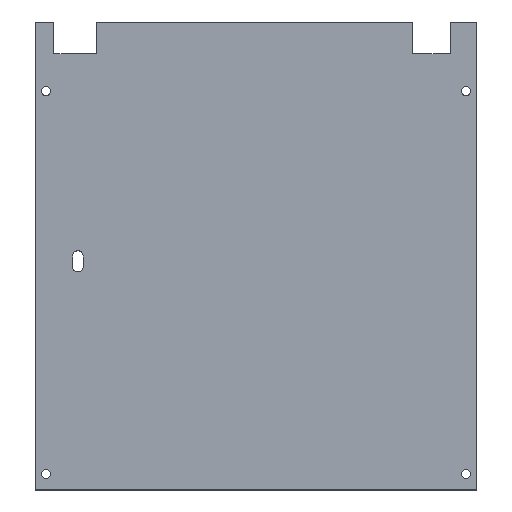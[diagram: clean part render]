
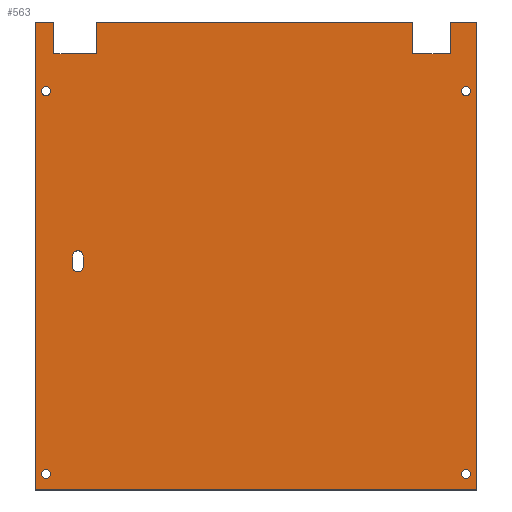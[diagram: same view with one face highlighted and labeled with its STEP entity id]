
A CAD part, top view. The second image highlights one B-rep face of the part: STEP entity #563.
In plain terms, the highlighted planar face has unit normal (0, 0, 1).
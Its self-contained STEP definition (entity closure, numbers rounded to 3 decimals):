
#116=CARTESIAN_POINT('',(-39.5,-41.,1.));
#117=DIRECTION('',(0.,0.,-1.));
#118=DIRECTION('',(-1.,0.,0.));
#119=AXIS2_PLACEMENT_3D('',#116,#117,#118);
#121=CARTESIAN_POINT('',(-39.5,-41.,1.));
#122=DIRECTION('',(0.,0.,-1.));
#123=DIRECTION('',(1.,0.,0.));
#124=AXIS2_PLACEMENT_3D('',#121,#122,#123);
#126=CARTESIAN_POINT('',(39.5,-41.,1.));
#127=DIRECTION('',(0.,0.,-1.));
#128=DIRECTION('',(-1.,0.,0.));
#129=AXIS2_PLACEMENT_3D('',#126,#127,#128);
#131=CARTESIAN_POINT('',(39.5,-41.,1.));
#132=DIRECTION('',(0.,0.,-1.));
#133=DIRECTION('',(1.,0.,0.));
#134=AXIS2_PLACEMENT_3D('',#131,#132,#133);
#136=CARTESIAN_POINT('',(-39.5,31.,1.));
#137=DIRECTION('',(0.,0.,-1.));
#138=DIRECTION('',(-1.,0.,0.));
#139=AXIS2_PLACEMENT_3D('',#136,#137,#138);
#141=CARTESIAN_POINT('',(-39.5,31.,1.));
#142=DIRECTION('',(0.,0.,-1.));
#143=DIRECTION('',(1.,0.,0.));
#144=AXIS2_PLACEMENT_3D('',#141,#142,#143);
#146=CARTESIAN_POINT('',(39.5,31.,1.));
#147=DIRECTION('',(0.,0.,-1.));
#148=DIRECTION('',(-1.,0.,0.));
#149=AXIS2_PLACEMENT_3D('',#146,#147,#148);
#151=CARTESIAN_POINT('',(39.5,31.,1.));
#152=DIRECTION('',(0.,0.,-1.));
#153=DIRECTION('',(1.,0.,0.));
#154=AXIS2_PLACEMENT_3D('',#151,#152,#153);
#156=CARTESIAN_POINT('',(-33.5,0.,1.));
#157=DIRECTION('',(0.,0.,1.));
#158=DIRECTION('',(1.,0.,0.));
#159=AXIS2_PLACEMENT_3D('',#156,#157,#158);
#161=DIRECTION('',(0.,-1.,0.));
#162=VECTOR('',#161,2.);
#163=CARTESIAN_POINT('',(-34.5,0.,1.));
#164=LINE('',#163,#162);
#165=CARTESIAN_POINT('',(-33.5,-2.,1.));
#166=DIRECTION('',(0.,0.,1.));
#167=DIRECTION('',(-1.,0.,0.));
#168=AXIS2_PLACEMENT_3D('',#165,#166,#167);
#170=DIRECTION('',(0.,1.,0.));
#171=VECTOR('',#170,2.);
#172=CARTESIAN_POINT('',(-32.5,-2.,1.));
#173=LINE('',#172,#171);
#174=DIRECTION('',(0.,-1.,0.));
#175=VECTOR('',#174,6.);
#176=CARTESIAN_POINT('',(-38.,44.,1.));
#177=LINE('',#176,#175);
#178=DIRECTION('',(1.,0.,0.));
#179=VECTOR('',#178,8.);
#180=CARTESIAN_POINT('',(-38.,38.,1.));
#181=LINE('',#180,#179);
#182=DIRECTION('',(0.,-1.,0.));
#183=VECTOR('',#182,6.);
#184=CARTESIAN_POINT('',(-30.,44.,1.));
#185=LINE('',#184,#183);
#186=DIRECTION('',(-1.,0.,0.));
#187=VECTOR('',#186,59.5);
#188=CARTESIAN_POINT('',(29.5,44.,1.));
#189=LINE('',#188,#187);
#190=DIRECTION('',(0.,-1.,0.));
#191=VECTOR('',#190,6.);
#192=CARTESIAN_POINT('',(29.5,44.,1.));
#193=LINE('',#192,#191);
#194=DIRECTION('',(1.,0.,0.));
#195=VECTOR('',#194,7.);
#196=CARTESIAN_POINT('',(29.5,38.,1.));
#197=LINE('',#196,#195);
#198=DIRECTION('',(0.,-1.,0.));
#199=VECTOR('',#198,6.);
#200=CARTESIAN_POINT('',(36.5,44.,1.));
#201=LINE('',#200,#199);
#202=DIRECTION('',(-1.,0.,0.));
#203=VECTOR('',#202,5.);
#204=CARTESIAN_POINT('',(41.5,44.,1.));
#205=LINE('',#204,#203);
#206=DIRECTION('',(0.,1.,0.));
#207=VECTOR('',#206,88.);
#208=CARTESIAN_POINT('',(41.5,-44.,1.));
#209=LINE('',#208,#207);
#210=DIRECTION('',(1.,0.,0.));
#211=VECTOR('',#210,83.);
#212=CARTESIAN_POINT('',(-41.5,-44.,1.));
#213=LINE('',#212,#211);
#214=DIRECTION('',(0.,-1.,0.));
#215=VECTOR('',#214,88.);
#216=CARTESIAN_POINT('',(-41.5,44.,1.));
#217=LINE('',#216,#215);
#218=DIRECTION('',(-1.,0.,0.));
#219=VECTOR('',#218,3.5);
#220=CARTESIAN_POINT('',(-38.,44.,1.));
#221=LINE('',#220,#219);
#318=CARTESIAN_POINT('',(-41.5,44.,1.));
#319=CARTESIAN_POINT('',(-41.5,-44.,1.));
#320=VERTEX_POINT('',#318);
#321=VERTEX_POINT('',#319);
#322=CARTESIAN_POINT('',(41.5,-44.,1.));
#323=VERTEX_POINT('',#322);
#324=CARTESIAN_POINT('',(41.5,44.,1.));
#325=VERTEX_POINT('',#324);
#330=CARTESIAN_POINT('',(-40.35,-41.,1.));
#331=CARTESIAN_POINT('',(-38.65,-41.,1.));
#332=VERTEX_POINT('',#330);
#333=VERTEX_POINT('',#331);
#338=CARTESIAN_POINT('',(38.65,-41.,1.));
#339=CARTESIAN_POINT('',(40.35,-41.,1.));
#340=VERTEX_POINT('',#338);
#341=VERTEX_POINT('',#339);
#346=CARTESIAN_POINT('',(-40.35,31.,1.));
#347=CARTESIAN_POINT('',(-38.65,31.,1.));
#348=VERTEX_POINT('',#346);
#349=VERTEX_POINT('',#347);
#354=CARTESIAN_POINT('',(38.65,31.,1.));
#355=CARTESIAN_POINT('',(40.35,31.,1.));
#356=VERTEX_POINT('',#354);
#357=VERTEX_POINT('',#355);
#366=CARTESIAN_POINT('',(-32.5,0.,1.));
#367=CARTESIAN_POINT('',(-34.5,0.,1.));
#368=VERTEX_POINT('',#366);
#369=VERTEX_POINT('',#367);
#370=CARTESIAN_POINT('',(-34.5,-2.,1.));
#371=VERTEX_POINT('',#370);
#372=CARTESIAN_POINT('',(-32.5,-2.,1.));
#373=VERTEX_POINT('',#372);
#382=CARTESIAN_POINT('',(-38.,44.,1.));
#383=CARTESIAN_POINT('',(-38.,38.,1.));
#384=VERTEX_POINT('',#382);
#385=VERTEX_POINT('',#383);
#386=CARTESIAN_POINT('',(-30.,38.,1.));
#387=VERTEX_POINT('',#386);
#388=CARTESIAN_POINT('',(-30.,44.,1.));
#389=VERTEX_POINT('',#388);
#394=CARTESIAN_POINT('',(36.5,44.,1.));
#395=VERTEX_POINT('',#394);
#396=CARTESIAN_POINT('',(29.5,44.,1.));
#397=VERTEX_POINT('',#396);
#402=CARTESIAN_POINT('',(29.5,38.,1.));
#403=VERTEX_POINT('',#402);
#404=CARTESIAN_POINT('',(36.5,38.,1.));
#405=VERTEX_POINT('',#404);
#500=CARTESIAN_POINT('',(0.,0.,1.));
#501=DIRECTION('',(0.,0.,1.));
#502=DIRECTION('',(1.,0.,0.));
#503=AXIS2_PLACEMENT_3D('',#500,#501,#502);
#504=PLANE('',#503);
#506=ORIENTED_EDGE('',*,*,#505,.T.);
#508=ORIENTED_EDGE('',*,*,#507,.T.);
#510=ORIENTED_EDGE('',*,*,#509,.F.);
#512=ORIENTED_EDGE('',*,*,#511,.F.);
#514=ORIENTED_EDGE('',*,*,#513,.T.);
#516=ORIENTED_EDGE('',*,*,#515,.T.);
#518=ORIENTED_EDGE('',*,*,#517,.F.);
#520=ORIENTED_EDGE('',*,*,#519,.F.);
#522=ORIENTED_EDGE('',*,*,#521,.F.);
#524=ORIENTED_EDGE('',*,*,#523,.F.);
#526=ORIENTED_EDGE('',*,*,#525,.F.);
#528=ORIENTED_EDGE('',*,*,#527,.F.);
#529=EDGE_LOOP('',(#506,#508,#510,#512,#514,#516,#518,#520,#522,#524,#526,
#528));
#530=FACE_OUTER_BOUND('',#529,.F.);
#532=ORIENTED_EDGE('',*,*,#531,.F.);
#534=ORIENTED_EDGE('',*,*,#533,.F.);
#535=EDGE_LOOP('',(#532,#534));
#536=FACE_BOUND('',#535,.F.);
#538=ORIENTED_EDGE('',*,*,#537,.F.);
#540=ORIENTED_EDGE('',*,*,#539,.F.);
#541=EDGE_LOOP('',(#538,#540));
#542=FACE_BOUND('',#541,.F.);
#544=ORIENTED_EDGE('',*,*,#543,.F.);
#546=ORIENTED_EDGE('',*,*,#545,.F.);
#547=EDGE_LOOP('',(#544,#546));
#548=FACE_BOUND('',#547,.F.);
#550=ORIENTED_EDGE('',*,*,#549,.T.);
#552=ORIENTED_EDGE('',*,*,#551,.T.);
#554=ORIENTED_EDGE('',*,*,#553,.T.);
#556=ORIENTED_EDGE('',*,*,#555,.T.);
#557=EDGE_LOOP('',(#550,#552,#554,#556));
#558=FACE_BOUND('',#557,.F.);
#559=ORIENTED_EDGE('',*,*,#480,.F.);
#560=ORIENTED_EDGE('',*,*,#494,.F.);
#561=EDGE_LOOP('',(#559,#560));
#562=FACE_BOUND('',#561,.F.);
#563=ADVANCED_FACE('',(#530,#536,#542,#548,#558,#562),#504,.T.);
#120=CIRCLE('',#119,0.85);
#125=CIRCLE('',#124,0.85);
#130=CIRCLE('',#129,0.85);
#135=CIRCLE('',#134,0.85);
#140=CIRCLE('',#139,0.85);
#145=CIRCLE('',#144,0.85);
#150=CIRCLE('',#149,0.85);
#155=CIRCLE('',#154,0.85);
#160=CIRCLE('',#159,1.);
#169=CIRCLE('',#168,1.);
#480=EDGE_CURVE('',#332,#333,#120,.T.);
#494=EDGE_CURVE('',#333,#332,#125,.T.);
#505=EDGE_CURVE('',#384,#385,#177,.T.);
#507=EDGE_CURVE('',#385,#387,#181,.T.);
#509=EDGE_CURVE('',#389,#387,#185,.T.);
#511=EDGE_CURVE('',#397,#389,#189,.T.);
#513=EDGE_CURVE('',#397,#403,#193,.T.);
#515=EDGE_CURVE('',#403,#405,#197,.T.);
#517=EDGE_CURVE('',#395,#405,#201,.T.);
#519=EDGE_CURVE('',#325,#395,#205,.T.);
#521=EDGE_CURVE('',#323,#325,#209,.T.);
#523=EDGE_CURVE('',#321,#323,#213,.T.);
#525=EDGE_CURVE('',#320,#321,#217,.T.);
#527=EDGE_CURVE('',#384,#320,#221,.T.);
#531=EDGE_CURVE('',#340,#341,#130,.T.);
#533=EDGE_CURVE('',#341,#340,#135,.T.);
#537=EDGE_CURVE('',#348,#349,#140,.T.);
#539=EDGE_CURVE('',#349,#348,#145,.T.);
#543=EDGE_CURVE('',#356,#357,#150,.T.);
#545=EDGE_CURVE('',#357,#356,#155,.T.);
#549=EDGE_CURVE('',#368,#369,#160,.T.);
#551=EDGE_CURVE('',#369,#371,#164,.T.);
#553=EDGE_CURVE('',#371,#373,#169,.T.);
#555=EDGE_CURVE('',#373,#368,#173,.T.);
